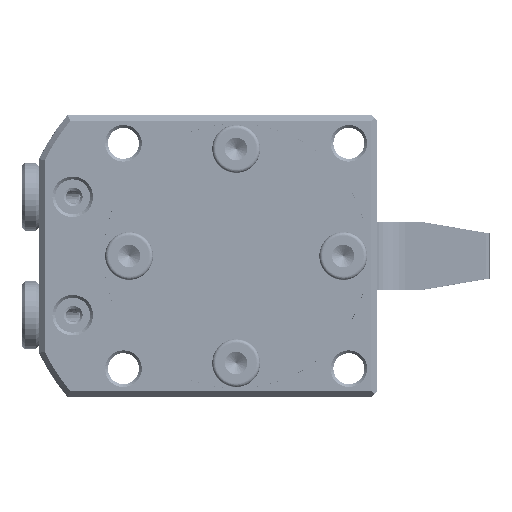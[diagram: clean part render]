
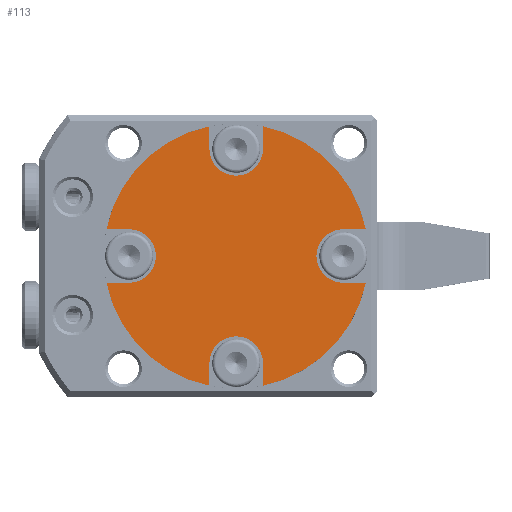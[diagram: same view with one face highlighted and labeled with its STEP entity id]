
A CAD part, front view. The second image highlights one B-rep face of the part: STEP entity #113.
In plain terms, the highlighted planar face has unit normal (0, -1, 0).
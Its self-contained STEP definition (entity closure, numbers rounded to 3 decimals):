
#89 = VERTEX_POINT ( 'NONE', #23517 ) ;
#92 = EDGE_CURVE ( 'NONE', #238, #160, #23535, .T. ) ;
#113 = ADVANCED_FACE ( 'NONE', ( #23562 ), #23537, .F. ) ;
#114 = EDGE_CURVE ( 'NONE', #89, #59725, #23581, .T. ) ;
#117 = ORIENTED_EDGE ( 'NONE', *, *, #59743, .F. ) ;
#119 = VERTEX_POINT ( 'NONE', #23574 ) ;
#121 = EDGE_CURVE ( 'NONE', #119, #89, #23635, .T. ) ;
#124 = EDGE_CURVE ( 'NONE', #207, #59260, #23619, .T. ) ;
#125 = ORIENTED_EDGE ( 'NONE', *, *, #59704, .F. ) ;
#129 = ORIENTED_EDGE ( 'NONE', *, *, #121, .F. ) ;
#131 = EDGE_CURVE ( 'NONE', #59677, #119, #23613, .T. ) ;
#132 = EDGE_CURVE ( 'NONE', #59110, #59670, #23651, .T. ) ;
#139 = ORIENTED_EDGE ( 'NONE', *, *, #114, .F. ) ;
#143 = EDGE_LOOP ( 'NONE', ( #117, #139, #129, #203, #125, #205, #149, #145, #211, #230, #237, #178, #235, #173, #273, #212, #216 ) ) ;
#145 = ORIENTED_EDGE ( 'NONE', *, *, #124, .F. ) ;
#149 = ORIENTED_EDGE ( 'NONE', *, *, #59298, .F. ) ;
#150 = VERTEX_POINT ( 'NONE', #23657 ) ;
#155 = EDGE_CURVE ( 'NONE', #165, #207, #23660, .T. ) ;
#158 = VERTEX_POINT ( 'NONE', #23689 ) ;
#160 = VERTEX_POINT ( 'NONE', #23659 ) ;
#164 = EDGE_CURVE ( 'NONE', #150, #165, #23722, .T. ) ;
#165 = VERTEX_POINT ( 'NONE', #23702 ) ;
#173 = ORIENTED_EDGE ( 'NONE', *, *, #188, .F. ) ;
#178 = ORIENTED_EDGE ( 'NONE', *, *, #92, .F. ) ;
#180 = EDGE_CURVE ( 'NONE', #196, #238, #23761, .T. ) ;
#188 = EDGE_CURVE ( 'NONE', #233, #196, #23778, .T. ) ;
#193 = EDGE_CURVE ( 'NONE', #59721, #158, #23772, .T. ) ;
#196 = VERTEX_POINT ( 'NONE', #23768 ) ;
#203 = ORIENTED_EDGE ( 'NONE', *, *, #131, .F. ) ;
#205 = ORIENTED_EDGE ( 'NONE', *, *, #132, .F. ) ;
#207 = VERTEX_POINT ( 'NONE', #23847 ) ;
#211 = ORIENTED_EDGE ( 'NONE', *, *, #155, .F. ) ;
#212 = ORIENTED_EDGE ( 'NONE', *, *, #275, .F. ) ;
#216 = ORIENTED_EDGE ( 'NONE', *, *, #193, .F. ) ;
#230 = ORIENTED_EDGE ( 'NONE', *, *, #164, .F. ) ;
#231 = EDGE_CURVE ( 'NONE', #160, #150, #23870, .T. ) ;
#233 = VERTEX_POINT ( 'NONE', #23861 ) ;
#235 = ORIENTED_EDGE ( 'NONE', *, *, #180, .F. ) ;
#237 = ORIENTED_EDGE ( 'NONE', *, *, #231, .F. ) ;
#238 = VERTEX_POINT ( 'NONE', #23876 ) ;
#241 = VERTEX_POINT ( 'NONE', #23873 ) ;
#267 = EDGE_CURVE ( 'NONE', #241, #233, #23968, .T. ) ;
#273 = ORIENTED_EDGE ( 'NONE', *, *, #267, .F. ) ;
#275 = EDGE_CURVE ( 'NONE', #158, #241, #23922, .T. ) ;
#23457 = AXIS2_PLACEMENT_3D ( 'NONE', #23534, #23533, #23532 ) ;
#23517 = CARTESIAN_POINT ( 'NONE',  ( 760.964, 71.515, -4.75 ) ) ;
#23532 = DIRECTION ( 'NONE',  ( -1., 0., 0. ) ) ;
#23533 = DIRECTION ( 'NONE',  ( 0., -1., 0. ) ) ;
#23534 = CARTESIAN_POINT ( 'NONE',  ( 722.964, 71.515, 0. ) ) ;
#23535 = CIRCLE ( 'NONE', #23457, 4.75 ) ;
#23537 = PLANE ( 'NONE',  #23547 ) ;
#23547 = AXIS2_PLACEMENT_3D ( 'NONE', #23560, #23584, #23583 ) ;
#23560 = CARTESIAN_POINT ( 'NONE',  ( 0., 71.515, 0. ) ) ;
#23562 = FACE_OUTER_BOUND ( 'NONE', #143, .T. ) ;
#23574 = CARTESIAN_POINT ( 'NONE',  ( 760.964, 71.515, 4.75 ) ) ;
#23578 = DIRECTION ( 'NONE',  ( 1., 0., 0. ) ) ;
#23579 = VECTOR ( 'NONE', #23578, 1000. ) ;
#23580 = CARTESIAN_POINT ( 'NONE',  ( 760.964, 71.515, -4.75 ) ) ;
#23581 = LINE ( 'NONE', #23580, #23579 ) ;
#23583 = DIRECTION ( 'NONE',  ( 0., 0., 1. ) ) ;
#23584 = DIRECTION ( 'NONE',  ( 0., 1., 0. ) ) ;
#23597 = DIRECTION ( 'NONE',  ( -1., 0., 0. ) ) ;
#23598 = VECTOR ( 'NONE', #23597, 1000. ) ;
#23599 = CARTESIAN_POINT ( 'NONE',  ( 760.964, 71.515, 4.75 ) ) ;
#23613 = LINE ( 'NONE', #23599, #23598 ) ;
#23615 = DIRECTION ( 'NONE',  ( 0., 0., 1. ) ) ;
#23616 = DIRECTION ( 'NONE',  ( 0., -1., 0. ) ) ;
#23617 = CARTESIAN_POINT ( 'NONE',  ( 741.964, 71.515, 19. ) ) ;
#23619 = CIRCLE ( 'NONE', #23628, 4.75 ) ;
#23628 = AXIS2_PLACEMENT_3D ( 'NONE', #23617, #23616, #23615 ) ;
#23630 = DIRECTION ( 'NONE',  ( 1., 0., 0. ) ) ;
#23631 = DIRECTION ( 'NONE',  ( 0., -1., 0. ) ) ;
#23633 = CARTESIAN_POINT ( 'NONE',  ( 760.964, 71.515, 0. ) ) ;
#23634 = AXIS2_PLACEMENT_3D ( 'NONE', #23633, #23631, #23630 ) ;
#23635 = CIRCLE ( 'NONE', #23634, 4.75 ) ;
#23648 = DIRECTION ( 'NONE',  ( 0., 0., 1. ) ) ;
#23649 = VECTOR ( 'NONE', #23648, 1000. ) ;
#23650 = CARTESIAN_POINT ( 'NONE',  ( 746.714, 71.515, 19. ) ) ;
#23651 = LINE ( 'NONE', #23650, #23649 ) ;
#23657 = CARTESIAN_POINT ( 'NONE',  ( 718.949, 71.515, 4.75 ) ) ;
#23659 = CARTESIAN_POINT ( 'NONE',  ( 722.964, 71.515, 4.75 ) ) ;
#23660 = LINE ( 'NONE', #23693, #23692 ) ;
#23689 = CARTESIAN_POINT ( 'NONE',  ( 746.714, 71.515, -19. ) ) ;
#23691 = DIRECTION ( 'NONE',  ( 0., 0., -1. ) ) ;
#23692 = VECTOR ( 'NONE', #23691, 1000. ) ;
#23693 = CARTESIAN_POINT ( 'NONE',  ( 737.214, 71.515, 19. ) ) ;
#23702 = CARTESIAN_POINT ( 'NONE',  ( 737.214, 71.515, 23.015 ) ) ;
#23704 = DIRECTION ( 'NONE',  ( 0., 0., 1. ) ) ;
#23705 = DIRECTION ( 'NONE',  ( 0., 1., 0. ) ) ;
#23706 = CARTESIAN_POINT ( 'NONE',  ( 741.964, 71.515, 0. ) ) ;
#23722 = CIRCLE ( 'NONE', #23725, 23.5 ) ;
#23725 = AXIS2_PLACEMENT_3D ( 'NONE', #23706, #23705, #23704 ) ;
#23758 = DIRECTION ( 'NONE',  ( 1., 0., 0. ) ) ;
#23759 = VECTOR ( 'NONE', #23758, 1000. ) ;
#23760 = CARTESIAN_POINT ( 'NONE',  ( 722.964, 71.515, -4.75 ) ) ;
#23761 = LINE ( 'NONE', #23760, #23759 ) ;
#23768 = CARTESIAN_POINT ( 'NONE',  ( 718.949, 71.515, -4.75 ) ) ;
#23769 = DIRECTION ( 'NONE',  ( 0., 0., 1. ) ) ;
#23770 = VECTOR ( 'NONE', #23769, 1000. ) ;
#23771 = CARTESIAN_POINT ( 'NONE',  ( 746.714, 71.515, -19. ) ) ;
#23772 = LINE ( 'NONE', #23771, #23770 ) ;
#23774 = DIRECTION ( 'NONE',  ( 0., 0., 1. ) ) ;
#23775 = DIRECTION ( 'NONE',  ( 0., 1., 0. ) ) ;
#23776 = CARTESIAN_POINT ( 'NONE',  ( 741.964, 71.515, 0. ) ) ;
#23777 = AXIS2_PLACEMENT_3D ( 'NONE', #23776, #23775, #23774 ) ;
#23778 = CIRCLE ( 'NONE', #23777, 23.5 ) ;
#23847 = CARTESIAN_POINT ( 'NONE',  ( 737.214, 71.515, 19. ) ) ;
#23861 = CARTESIAN_POINT ( 'NONE',  ( 737.214, 71.515, -23.015 ) ) ;
#23870 = LINE ( 'NONE', #23881, #23880 ) ;
#23873 = CARTESIAN_POINT ( 'NONE',  ( 737.214, 71.515, -19. ) ) ;
#23874 = DIRECTION ( 'NONE',  ( -1., 0., 0. ) ) ;
#23876 = CARTESIAN_POINT ( 'NONE',  ( 722.964, 71.515, -4.75 ) ) ;
#23880 = VECTOR ( 'NONE', #23874, 1000. ) ;
#23881 = CARTESIAN_POINT ( 'NONE',  ( 722.964, 71.515, 4.75 ) ) ;
#23922 = CIRCLE ( 'NONE', #23946, 4.75 ) ;
#23946 = AXIS2_PLACEMENT_3D ( 'NONE', #23961, #23962, #23991 ) ;
#23961 = CARTESIAN_POINT ( 'NONE',  ( 741.964, 71.515, -19. ) ) ;
#23962 = DIRECTION ( 'NONE',  ( 0., -1., 0. ) ) ;
#23965 = DIRECTION ( 'NONE',  ( 0., 0., -1. ) ) ;
#23966 = VECTOR ( 'NONE', #23965, 1000. ) ;
#23967 = CARTESIAN_POINT ( 'NONE',  ( 737.214, 71.515, -19. ) ) ;
#23968 = LINE ( 'NONE', #23967, #23966 ) ;
#23991 = DIRECTION ( 'NONE',  ( 0., 0., -1. ) ) ;
#56877 = CARTESIAN_POINT ( 'NONE',  ( 746.714, 71.515, 19. ) ) ;
#57174 = CARTESIAN_POINT ( 'NONE',  ( 764.979, 71.515, -4.75 ) ) ;
#57184 = CARTESIAN_POINT ( 'NONE',  ( 741.964, 71.515, 14.25 ) ) ;
#57243 = DIRECTION ( 'NONE',  ( 0., 0., 1. ) ) ;
#57244 = DIRECTION ( 'NONE',  ( 0., -1., 0. ) ) ;
#57245 = CARTESIAN_POINT ( 'NONE',  ( 741.964, 71.515, 19. ) ) ;
#57246 = AXIS2_PLACEMENT_3D ( 'NONE', #57245, #57244, #57243 ) ;
#57247 = CIRCLE ( 'NONE', #57246, 4.75 ) ;
#58071 = CARTESIAN_POINT ( 'NONE',  ( 746.714, 71.515, 23.015 ) ) ;
#58073 = CARTESIAN_POINT ( 'NONE',  ( 764.979, 71.515, 4.75 ) ) ;
#58110 = AXIS2_PLACEMENT_3D ( 'NONE', #58156, #58155, #58154 ) ;
#58154 = DIRECTION ( 'NONE',  ( 0., 0., 1. ) ) ;
#58155 = DIRECTION ( 'NONE',  ( 0., 1., 0. ) ) ;
#58156 = CARTESIAN_POINT ( 'NONE',  ( 741.964, 71.515, 0. ) ) ;
#58157 = CIRCLE ( 'NONE', #58110, 23.5 ) ;
#58168 = CARTESIAN_POINT ( 'NONE',  ( 746.714, 71.515, -23.015 ) ) ;
#58225 = DIRECTION ( 'NONE',  ( 0., 0., 1. ) ) ;
#58226 = DIRECTION ( 'NONE',  ( 0., 1., 0. ) ) ;
#58227 = CARTESIAN_POINT ( 'NONE',  ( 741.964, 71.515, 0. ) ) ;
#58235 = AXIS2_PLACEMENT_3D ( 'NONE', #58227, #58226, #58225 ) ;
#58245 = CIRCLE ( 'NONE', #58235, 23.5 ) ;
#59110 = VERTEX_POINT ( 'NONE', #56877 ) ;
#59260 = VERTEX_POINT ( 'NONE', #57184 ) ;
#59298 = EDGE_CURVE ( 'NONE', #59260, #59110, #57247, .T. ) ;
#59670 = VERTEX_POINT ( 'NONE', #58071 ) ;
#59677 = VERTEX_POINT ( 'NONE', #58073 ) ;
#59704 = EDGE_CURVE ( 'NONE', #59670, #59677, #58157, .T. ) ;
#59721 = VERTEX_POINT ( 'NONE', #58168 ) ;
#59725 = VERTEX_POINT ( 'NONE', #57174 ) ;
#59743 = EDGE_CURVE ( 'NONE', #59725, #59721, #58245, .T. ) ;
